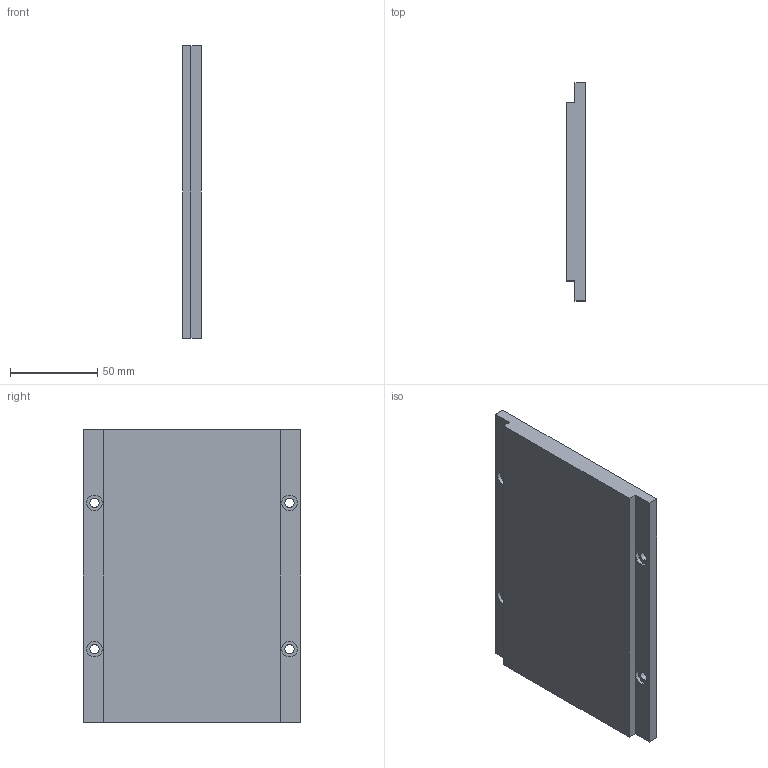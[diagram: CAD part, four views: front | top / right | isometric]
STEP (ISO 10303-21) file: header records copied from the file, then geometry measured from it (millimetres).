
FILE_DESCRIPTION (( 'STEP AP214' ), '1' );
FILE_NAME ('WKM100-168.STEP', '2025-09-05T12:00:35', ( '' ), ( '' ), 'SwSTEP 2.0', 'SolidWorks 2016', '' );
FILE_SCHEMA (( 'AUTOMOTIVE_DESIGN' ));
Length unit declared in the file: millimetre
Products named in the file (1): WKM100-168
Bounding box: 10.8 x 125 x 168 mm (x, y, z)
Volume: 207552.2 mm3; surface area: 48426 mm2
Topology: 1 solids, 1 shells, 30 faces, 72 edges, 48 vertices
Faces by surface type: cylinder 16, plane 14
Entity records: 938 total; most frequent: DIRECTION 166, CARTESIAN_POINT 151, ORIENTED_EDGE 144, EDGE_CURVE 72, AXIS2_PLACEMENT_3D 63, VERTEX_POINT 48, EDGE_LOOP 42, LINE 40
